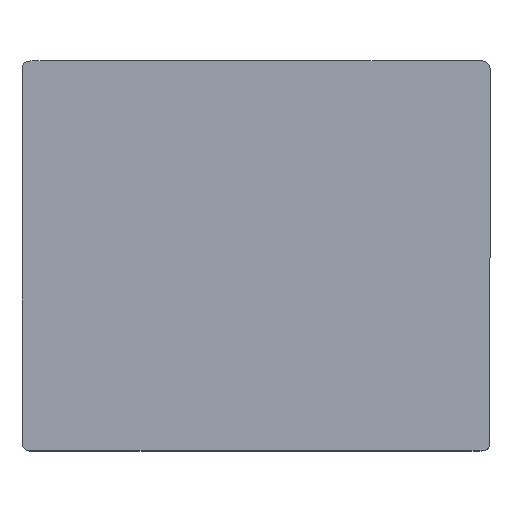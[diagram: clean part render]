
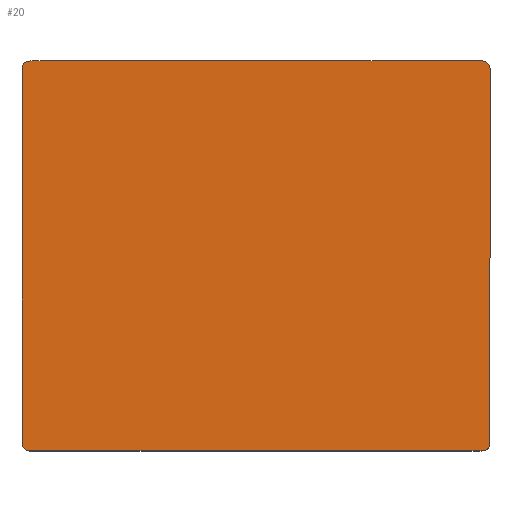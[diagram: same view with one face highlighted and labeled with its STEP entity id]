
A CAD part, top view. The second image highlights one B-rep face of the part: STEP entity #20.
In plain terms, the highlighted planar face has unit normal (0, 0, 1).
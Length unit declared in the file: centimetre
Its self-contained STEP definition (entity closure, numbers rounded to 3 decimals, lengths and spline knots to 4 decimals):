
#20=ADVANCED_FACE($,(#38),#217,.T.);
#38=FACE_OUTER_BOUND($,#56,.T.);
#56=EDGE_LOOP($,(#78,#79));
#78=ORIENTED_EDGE($,*,*,#146,.T.);
#79=ORIENTED_EDGE($,*,*,#149,.T.);
#146=EDGE_CURVE($,#181,#183,#225,.T.);
#149=EDGE_CURVE($,#183,#181,#227,.T.);
#181=VERTEX_POINT($,#443);
#183=VERTEX_POINT($,#445);
#217=PLANE($,#347);
#225=(
BOUNDED_CURVE()
B_SPLINE_CURVE(2,(#375,#376,#377,#378,#379,#380,#381,#382,#383),.UNSPECIFIED.,
.F.,.F.)
B_SPLINE_CURVE_WITH_KNOTS((3,2,2,2,3),(2182.8319,2214.2478,3374.2478,
3405.6637,4365.6637),.UNSPECIFIED.)
CURVE()
GEOMETRIC_REPRESENTATION_ITEM()
RATIONAL_B_SPLINE_CURVE((1.,0.707,1.,1.,1.,0.707,
1.,1.,1.))
REPRESENTATION_ITEM($)
);
#227=(
BOUNDED_CURVE()
B_SPLINE_CURVE(2,(#395,#396,#397,#398,#399,#400,#401,#402,#403),.UNSPECIFIED.,
.F.,.F.)
B_SPLINE_CURVE_WITH_KNOTS((3,2,2,2,3),(4365.6637,4397.0796,5557.0796,
5588.4956,6548.4956),.UNSPECIFIED.)
CURVE()
GEOMETRIC_REPRESENTATION_ITEM()
RATIONAL_B_SPLINE_CURVE((1.,0.707,1.,1.,1.,0.707,
1.,1.,1.))
REPRESENTATION_ITEM($)
);
#347=AXIS2_PLACEMENT_3D($,#423,#356,$);
#356=DIRECTION($,(0.,0.,1.));
#375=CARTESIAN_POINT($,(-8.6799,-4.5054,31.7));
#376=CARTESIAN_POINT($,(-8.6799,-6.5054,31.7));
#377=CARTESIAN_POINT($,(-6.6799,-6.5054,31.7));
#378=CARTESIAN_POINT($,(51.3201,-6.5054,31.7));
#379=CARTESIAN_POINT($,(109.3201,-6.5054,31.7));
#380=CARTESIAN_POINT($,(111.3201,-6.5054,31.7));
#381=CARTESIAN_POINT($,(111.3201,-4.5054,31.7));
#382=CARTESIAN_POINT($,(111.3201,43.4946,31.7));
#383=CARTESIAN_POINT($,(111.3201,91.4946,31.7));
#395=CARTESIAN_POINT($,(111.3201,91.4946,31.7));
#396=CARTESIAN_POINT($,(111.3201,93.4946,31.7));
#397=CARTESIAN_POINT($,(109.3201,93.4946,31.7));
#398=CARTESIAN_POINT($,(51.3201,93.4946,31.7));
#399=CARTESIAN_POINT($,(-6.6799,93.4946,31.7));
#400=CARTESIAN_POINT($,(-8.6799,93.4946,31.7));
#401=CARTESIAN_POINT($,(-8.6799,91.4946,31.7));
#402=CARTESIAN_POINT($,(-8.6799,43.4946,31.7));
#403=CARTESIAN_POINT($,(-8.6799,-4.5054,31.7));
#423=CARTESIAN_POINT($,(-8.6799,-6.5054,31.7));
#443=CARTESIAN_POINT($,(-8.6799,-4.5054,31.7));
#445=CARTESIAN_POINT($,(111.3201,91.4946,31.7));
